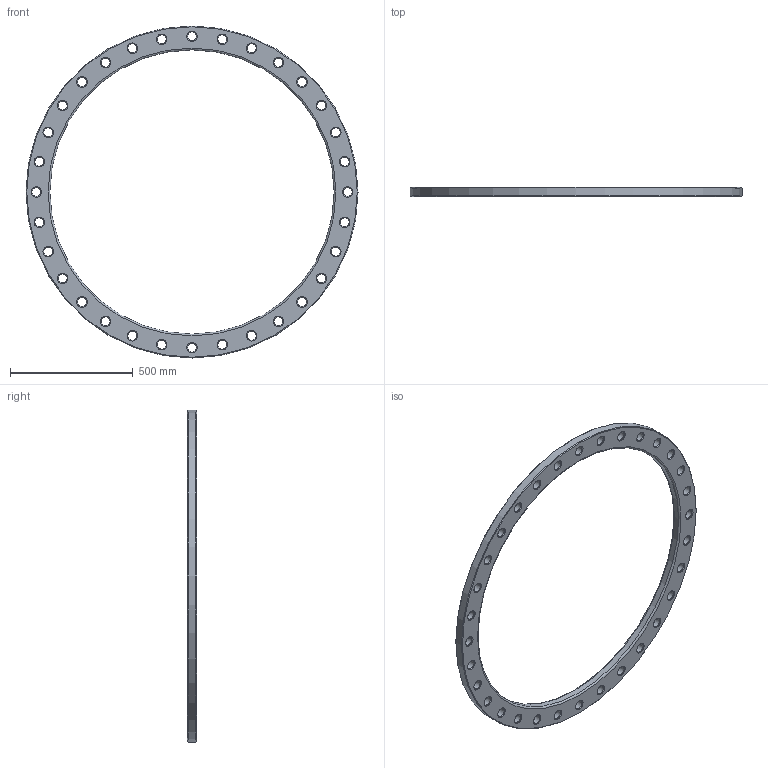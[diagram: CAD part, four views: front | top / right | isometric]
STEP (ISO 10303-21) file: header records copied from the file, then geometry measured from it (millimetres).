
FILE_DESCRIPTION(/* description */ ('Unknown'),/* implementation_level */ '2;1');
FILE_NAME(/* name */ 'FZ1100B',/* time_stamp */ '2021-03-15T11:10:39+01:00',/* author */ ('Unknown'),/* organization */ ('Unknown'),/* preprocessor_version */ 'ST-DEVELOPER v16.7',/* originating_system */ 'Solid Edge',/* authorisation */ 'Unknown');
FILE_SCHEMA (('AUTOMOTIVE_DESIGN {1 0 10303 214 3 1 1}'));
Length unit declared in the file: millimetre
Products named in the file (1): FZ1100B
Bounding box: 1355 x 38 x 1355 mm (x, y, z)
Volume: 13178952.3 mm3; surface area: 1093969.7 mm2
Topology: 1 solids, 1 shells, 104 faces, 334 edges, 232 vertices
Faces by surface type: cone 66, cylinder 34, plane 2, torus 2
Full cylindrical faces by diameter (mm): 37 x32, 1160 x1, 1355 x1
Entity records: 2566 total; most frequent: DIRECTION 482, CARTESIAN_POINT 377, ORIENTED_EDGE 272, EDGE_LOOP 272, FACE_BOUND 272, AXIS2_PLACEMENT_3D 241, EDGE_CURVE 136, VERTEX_POINT 136
